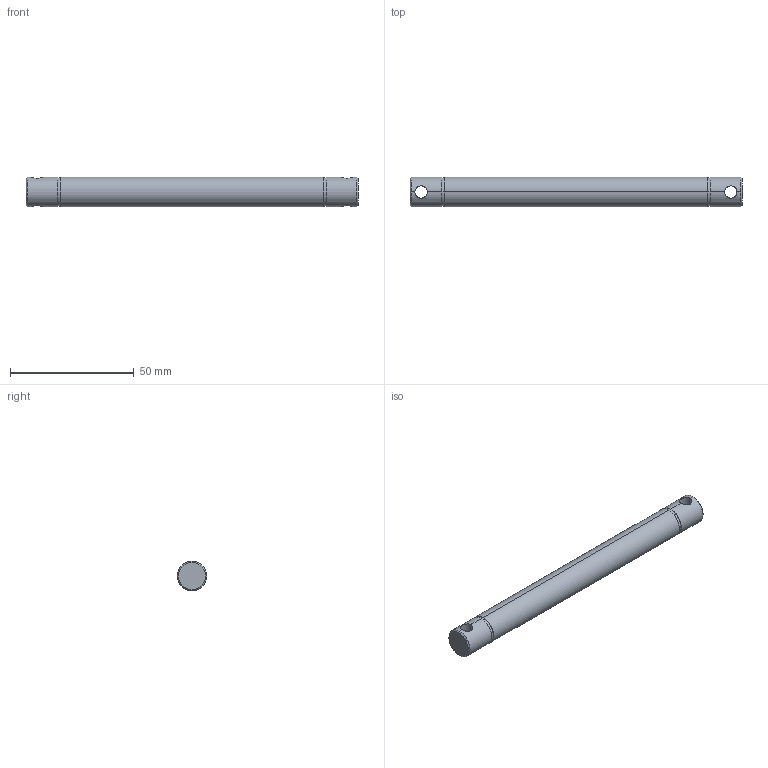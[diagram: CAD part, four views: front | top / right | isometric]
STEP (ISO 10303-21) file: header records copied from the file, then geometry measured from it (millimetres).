
FILE_DESCRIPTION (( 'STEP AP214' ), '1' );
FILE_NAME ('084.030.188.STEP', '2021-02-05T15:48:17', ( '' ), ( '' ), 'SwSTEP 2.0', 'SolidWorks 2018', '' );
FILE_SCHEMA (( 'AUTOMOTIVE_DESIGN' ));
Length unit declared in the file: millimetre
Products named in the file (1): 084.030.188
Bounding box: 134 x 12 x 12 mm (x, y, z)
Volume: 14664.8 mm3; surface area: 5568.3 mm2
Topology: 1 solids, 1 shells, 24 faces, 54 edges, 32 vertices
Faces by surface type: cylinder 14, plane 6, cone 4
Entity records: 976 total; most frequent: CARTESIAN_POINT 351, DIRECTION 120, ORIENTED_EDGE 108, EDGE_CURVE 54, AXIS2_PLACEMENT_3D 49, VERTEX_POINT 32, EDGE_LOOP 28, CIRCLE 24
